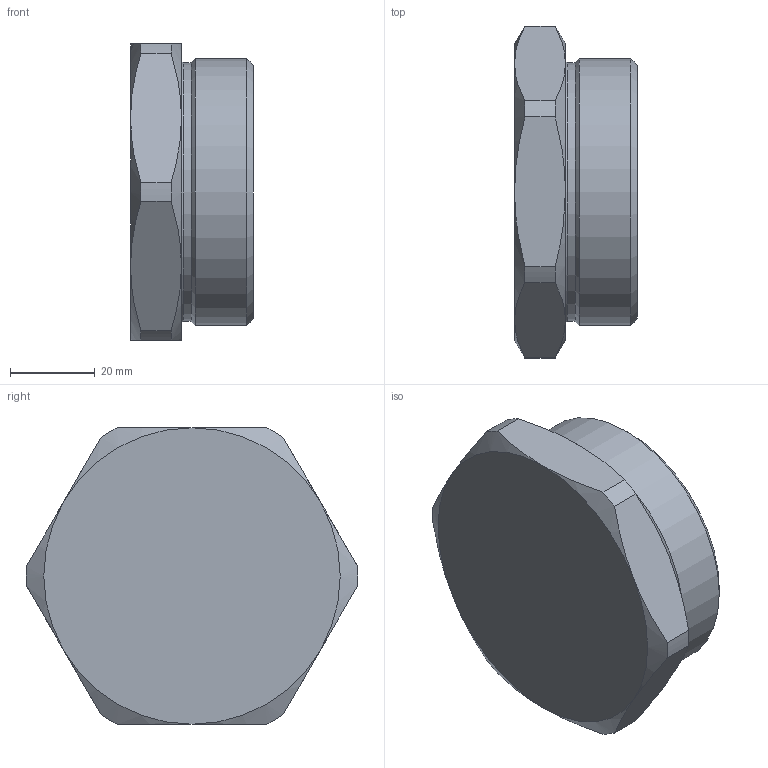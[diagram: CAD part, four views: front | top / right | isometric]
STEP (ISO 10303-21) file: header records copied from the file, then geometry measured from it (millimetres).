
FILE_DESCRIPTION (( 'STEP AP214' ), '1' );
FILE_NAME ('ﾂﾇﾍ6Mﾍ.STEP', '2021-05-19T08:05:29', ( '' ), ( '' ), 'SwSTEP 2.0', 'SolidWorks 2018', '' );
FILE_SCHEMA (( 'AUTOMOTIVE_DESIGN' ));
Length unit declared in the file: millimetre
Products named in the file (1): ﾂﾇﾍ6Mﾍ
Bounding box: 29 x 78.39 x 70 mm (x, y, z)
Volume: 66187.8 mm3; surface area: 17064.1 mm2
Topology: 1 solids, 1 shells, 35 faces, 77 edges, 46 vertices
Faces by surface type: cone 15, plane 10, cylinder 9, torus 1
Full cylindrical faces by diameter (mm): 52 x1, 61.1 x1, 63 x1
Entity records: 1085 total; most frequent: CARTESIAN_POINT 326, DIRECTION 150, ORIENTED_EDGE 138, AXIS2_PLACEMENT_3D 69, EDGE_CURVE 69, VERTEX_POINT 45, EDGE_LOOP 44, FACE_OUTER_BOUND 39
